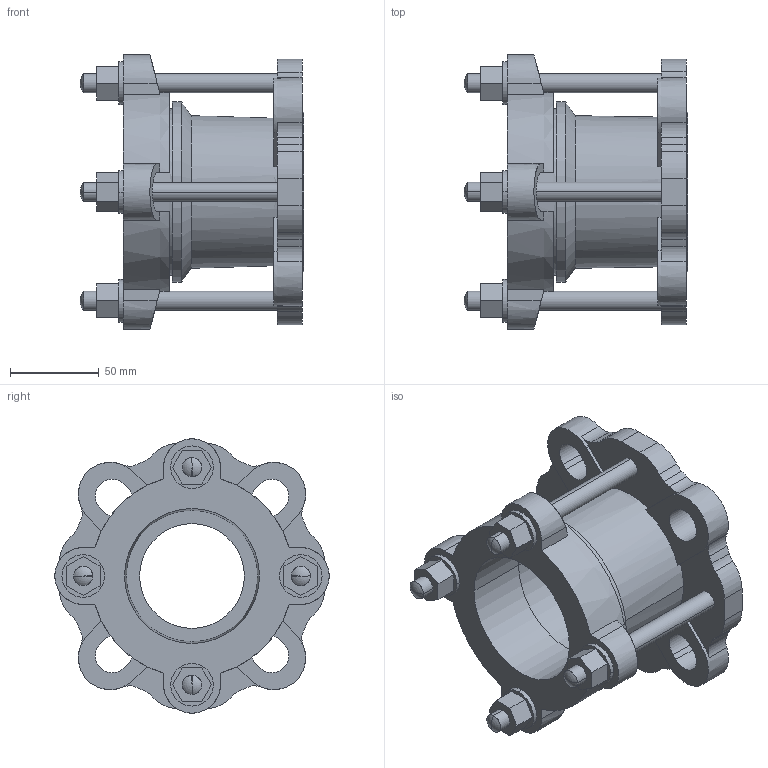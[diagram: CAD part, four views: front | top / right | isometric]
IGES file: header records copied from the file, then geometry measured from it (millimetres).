
Start section:  PTC IGES file: maxidaptor_57-74.igs
Global section: file name: maxidaptor_57-74.igs; native system: Creo Parametric by PTC Inc.; preprocessor: 2016130; author: MReader; organization: Unknown; date: 20181005.094231; units: millimetre
Bounding box: 126 x 154.5 x 154.5 mm (x, y, z)
Surface area: 126418.6 mm2 (no closed solid volume)
Topology: 0 solids, 0 shells, 205 faces, 1100 edges, 1092 vertices
Faces by surface type: revolution 104, bspline 101
